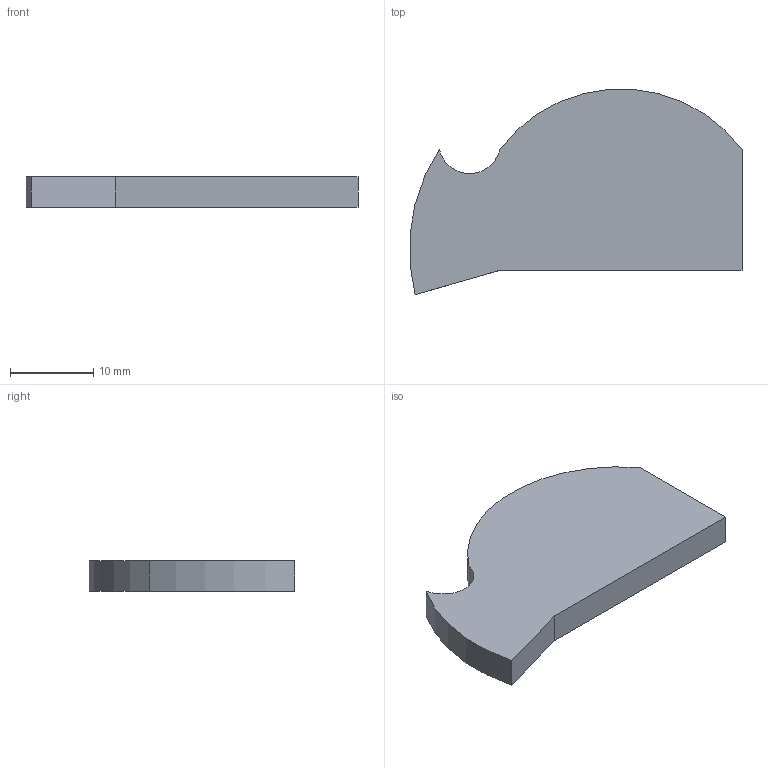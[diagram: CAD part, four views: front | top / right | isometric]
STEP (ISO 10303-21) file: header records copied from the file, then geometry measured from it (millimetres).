
FILE_DESCRIPTION(('Open CASCADE Model'),'2;1');
FILE_NAME('Open CASCADE Shape Model','2026-10-26T07:39:14',('Author'),( 'Open CASCADE'),'Open CASCADE STEP processor 7.9','Open CASCADE 7.9' ,'Unknown');
FILE_SCHEMA(('AUTOMOTIVE_DESIGN { 1 0 10303 214 1 1 1 1 }'));
Length unit declared in the file: millimetre
Products named in the file (1): Open CASCADE STEP translator 7.9 1
Bounding box: 39.93 x 24.68 x 3.64 mm (x, y, z)
Volume: 2607.3 mm3; surface area: 1856.1 mm2
Topology: 1 solids, 1 shells, 8 faces, 18 edges, 12 vertices
Faces by surface type: plane 5, cylinder 3
Entity records: 478 total; most frequent: CARTESIAN_POINT 87, DIRECTION 76, LINE 42, VECTOR 42, ORIENTED_EDGE 36, PCURVE 36, DEFINITIONAL_REPRESENTATION 36, EDGE_CURVE 18
